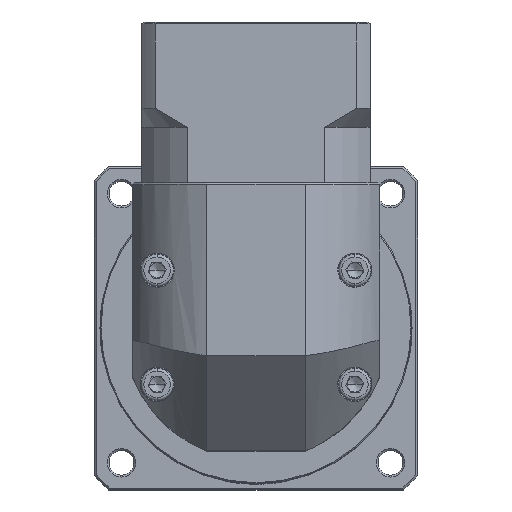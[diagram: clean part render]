
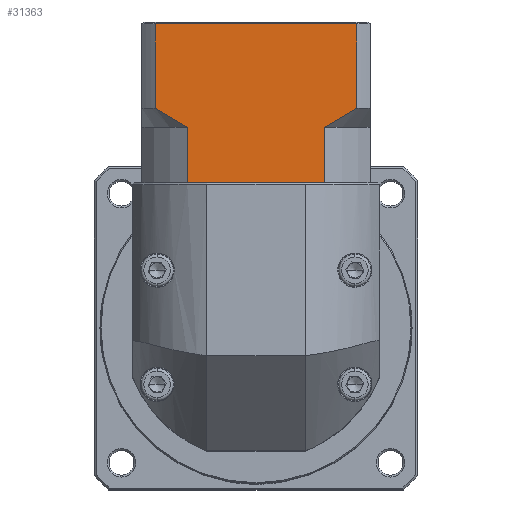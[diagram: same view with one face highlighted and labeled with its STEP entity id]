
A CAD part, top view. The second image highlights one B-rep face of the part: STEP entity #31363.
In plain terms, the highlighted planar face has unit normal (0, 0, 1).
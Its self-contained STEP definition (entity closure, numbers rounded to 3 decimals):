
#554 = ORIENTED_EDGE ( 'NONE', *, *, #144156, .T. ) ;
#1401 = CARTESIAN_POINT ( 'NONE',  ( -75.562, 112.778, 39.23 ) ) ;
#1959 = VERTEX_POINT ( 'NONE', #77481 ) ;
#5076 = DIRECTION ( 'NONE',  ( 1., 0., 0. ) ) ;
#5304 = ORIENTED_EDGE ( 'NONE', *, *, #121728, .F. ) ;
#5953 = CARTESIAN_POINT ( 'NONE',  ( -79.104, 93.278, 39.23 ) ) ;
#8972 = VECTOR ( 'NONE', #127507, 1000. ) ;
#9223 = LINE ( 'NONE', #129872, #90869 ) ;
#13143 = DIRECTION ( 'NONE',  ( 0., -1., 0. ) ) ;
#15449 = CARTESIAN_POINT ( 'NONE',  ( -66.141, 93.278, 39.23 ) ) ;
#18212 = CARTESIAN_POINT ( 'NONE',  ( -75.562, 107.778, 39.23 ) ) ;
#20197 = VERTEX_POINT ( 'NONE', #136380 ) ;
#20558 = CARTESIAN_POINT ( 'NONE',  ( -31.076, 107.778, 39.23 ) ) ;
#21623 = CARTESIAN_POINT ( 'NONE',  ( -29.62, 108.528, 39.23 ) ) ;
#25012 = EDGE_LOOP ( 'NONE', ( #5304, #99771, #119610, #110123, #43426, #45071, #29300, #554, #41532, #40914 ) ) ;
#25288 = CARTESIAN_POINT ( 'NONE',  ( -74.202, 111.878, 39.23 ) ) ;
#26057 = CARTESIAN_POINT ( 'NONE',  ( -75.562, 112.778, 39.23 ) ) ;
#26081 = DIRECTION ( 'NONE',  ( -1., 0., 0. ) ) ;
#28519 = EDGE_CURVE ( 'NONE', #47352, #20197, #9223, .T. ) ;
#29300 = ORIENTED_EDGE ( 'NONE', *, *, #119244, .T. ) ;
#30558 = CARTESIAN_POINT ( 'NONE',  ( -79.104, 93.278, 39.23 ) ) ;
#31363 = ADVANCED_FACE ( 'NONE', ( #67374 ), #138541, .F. ) ;
#32345 = LINE ( 'NONE', #81972, #140584 ) ;
#37733 = EDGE_CURVE ( 'NONE', #138974, #114871, #100055, .T. ) ;
#40914 = ORIENTED_EDGE ( 'NONE', *, *, #134522, .T. ) ;
#41532 = ORIENTED_EDGE ( 'NONE', *, *, #61408, .F. ) ;
#43326 = VECTOR ( 'NONE', #151575, 1000. ) ;
#43426 = ORIENTED_EDGE ( 'NONE', *, *, #28519, .F. ) ;
#45071 = ORIENTED_EDGE ( 'NONE', *, *, #113863, .T. ) ;
#45786 = EDGE_CURVE ( 'NONE', #138974, #20197, #99410, .T. ) ;
#47114 = LINE ( 'NONE', #30558, #43326 ) ;
#47162 = VERTEX_POINT ( 'NONE', #136926 ) ;
#47352 = VERTEX_POINT ( 'NONE', #57336 ) ;
#48000 = VECTOR ( 'NONE', #26081, 1000. ) ;
#48138 = CARTESIAN_POINT ( 'NONE',  ( -28.194, 109.328, 39.23 ) ) ;
#48403 = VECTOR ( 'NONE', #13143, 1000. ) ;
#54238 = DIRECTION ( 'NONE',  ( 0., 0., -1. ) ) ;
#56729 = B_SPLINE_CURVE_WITH_KNOTS ( 'NONE', 3,
 ( #20558, #21623, #48138, #121831, #60898, #83747 ),
 .UNSPECIFIED., .F., .F.,
 ( 4, 2, 4 ),
 ( 0.1, 0.104, 0.109 ),
 .UNSPECIFIED. ) ;
#57336 = CARTESIAN_POINT ( 'NONE',  ( -67.132, 93.278, 39.23 ) ) ;
#60898 = CARTESIAN_POINT ( 'NONE',  ( -24.009, 111.876, 39.23 ) ) ;
#61408 = EDGE_CURVE ( 'NONE', #1959, #154226, #32345, .T. ) ;
#65908 = CARTESIAN_POINT ( 'NONE',  ( -79.104, 135.478, 39.23 ) ) ;
#67320 = CARTESIAN_POINT ( 'NONE',  ( -31.076, 93.278, 39.23 ) ) ;
#67374 = FACE_OUTER_BOUND ( 'NONE', #25012, .T. ) ;
#68510 = LINE ( 'NONE', #5953, #129150 ) ;
#74469 = CARTESIAN_POINT ( 'NONE',  ( -79.104, 134.978, 39.23 ) ) ;
#77481 = CARTESIAN_POINT ( 'NONE',  ( -31.076, 107.778, 39.23 ) ) ;
#78149 = DIRECTION ( 'NONE',  ( 0., 1., 0. ) ) ;
#80324 = LINE ( 'NONE', #74469, #48000 ) ;
#80537 = LINE ( 'NONE', #150560, #118386 ) ;
#81399 = EDGE_CURVE ( 'NONE', #47162, #114871, #80324, .T. ) ;
#81972 = CARTESIAN_POINT ( 'NONE',  ( -31.076, 107.778, 39.23 ) ) ;
#83528 = DIRECTION ( 'NONE',  ( 0., -1., 0. ) ) ;
#83747 = CARTESIAN_POINT ( 'NONE',  ( -22.647, 112.778, 39.23 ) ) ;
#90210 = CARTESIAN_POINT ( 'NONE',  ( -75.562, 134.978, 39.23 ) ) ;
#90869 = VECTOR ( 'NONE', #130918, 1000. ) ;
#99410 = B_SPLINE_CURVE_WITH_KNOTS ( 'NONE', 3,
 ( #1401, #25288, #137747, #109680, #146348, #110755 ),
 .UNSPECIFIED., .F., .F.,
 ( 4, 2, 4 ),
 ( 0.052, 0.057, 0.062 ),
 .UNSPECIFIED. ) ;
#99771 = ORIENTED_EDGE ( 'NONE', *, *, #81399, .T. ) ;
#100055 = LINE ( 'NONE', #18212, #8972 ) ;
#109680 = CARTESIAN_POINT ( 'NONE',  ( -70.015, 109.329, 39.23 ) ) ;
#110123 = ORIENTED_EDGE ( 'NONE', *, *, #45786, .T. ) ;
#110755 = CARTESIAN_POINT ( 'NONE',  ( -67.132, 107.778, 39.23 ) ) ;
#113863 = EDGE_CURVE ( 'NONE', #47352, #145707, #47114, .T. ) ;
#114871 = VERTEX_POINT ( 'NONE', #90210 ) ;
#115920 = CARTESIAN_POINT ( 'NONE',  ( -32.067, 93.278, 39.23 ) ) ;
#116968 = AXIS2_PLACEMENT_3D ( 'NONE', #65908, #54238, #78149 ) ;
#118386 = VECTOR ( 'NONE', #5076, 1000. ) ;
#119244 = EDGE_CURVE ( 'NONE', #145707, #128821, #68510, .T. ) ;
#119610 = ORIENTED_EDGE ( 'NONE', *, *, #37733, .F. ) ;
#121728 = EDGE_CURVE ( 'NONE', #47162, #153754, #129977, .T. ) ;
#121831 = CARTESIAN_POINT ( 'NONE',  ( -25.389, 111.002, 39.23 ) ) ;
#127470 = DIRECTION ( 'NONE',  ( 1., 0., 0. ) ) ;
#127507 = DIRECTION ( 'NONE',  ( 0., 1., 0. ) ) ;
#128821 = VERTEX_POINT ( 'NONE', #115920 ) ;
#129150 = VECTOR ( 'NONE', #127470, 1000. ) ;
#129872 = CARTESIAN_POINT ( 'NONE',  ( -67.132, 107.778, 39.23 ) ) ;
#129977 = LINE ( 'NONE', #146437, #48403 ) ;
#130918 = DIRECTION ( 'NONE',  ( 0., 1., 0. ) ) ;
#134522 = EDGE_CURVE ( 'NONE', #1959, #153754, #56729, .T. ) ;
#136380 = CARTESIAN_POINT ( 'NONE',  ( -67.132, 107.778, 39.23 ) ) ;
#136926 = CARTESIAN_POINT ( 'NONE',  ( -22.647, 134.978, 39.23 ) ) ;
#137747 = CARTESIAN_POINT ( 'NONE',  ( -72.823, 111.005, 39.23 ) ) ;
#138541 = PLANE ( 'NONE',  #116968 ) ;
#138974 = VERTEX_POINT ( 'NONE', #26057 ) ;
#140584 = VECTOR ( 'NONE', #83528, 1000. ) ;
#143208 = CARTESIAN_POINT ( 'NONE',  ( -22.647, 112.778, 39.23 ) ) ;
#144156 = EDGE_CURVE ( 'NONE', #128821, #154226, #80537, .T. ) ;
#145707 = VERTEX_POINT ( 'NONE', #15449 ) ;
#146348 = CARTESIAN_POINT ( 'NONE',  ( -68.584, 108.525, 39.23 ) ) ;
#146437 = CARTESIAN_POINT ( 'NONE',  ( -22.647, 107.778, 39.23 ) ) ;
#150560 = CARTESIAN_POINT ( 'NONE',  ( -79.104, 93.278, 39.23 ) ) ;
#151575 = DIRECTION ( 'NONE',  ( 1., 0., 0. ) ) ;
#153754 = VERTEX_POINT ( 'NONE', #143208 ) ;
#154226 = VERTEX_POINT ( 'NONE', #67320 ) ;
